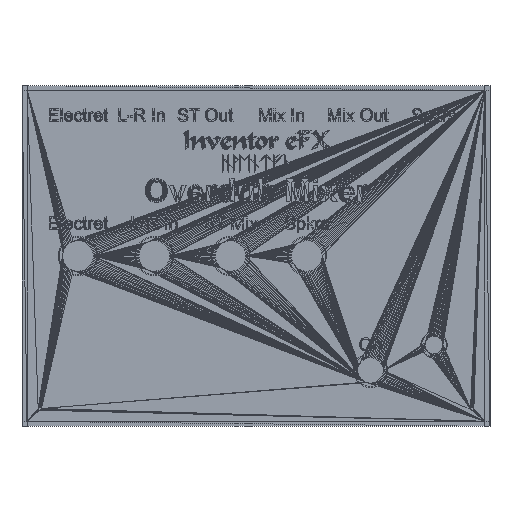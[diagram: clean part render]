
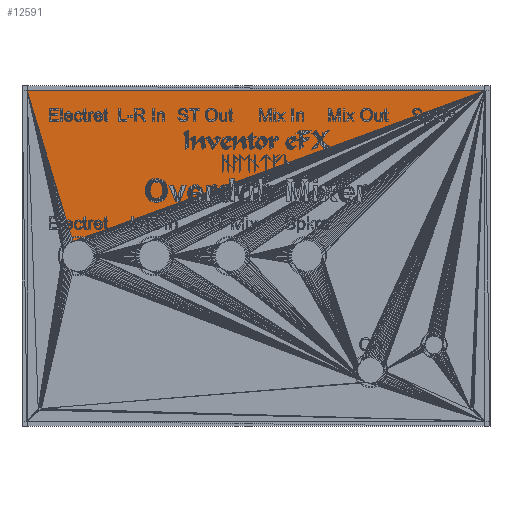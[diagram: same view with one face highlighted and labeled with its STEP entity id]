
A CAD part, top view. The second image highlights one B-rep face of the part: STEP entity #12591.
In plain terms, the highlighted planar face has unit normal (0, 0, 1).
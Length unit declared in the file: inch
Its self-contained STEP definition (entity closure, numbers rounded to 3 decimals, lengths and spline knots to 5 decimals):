
#12560=CARTESIAN_POINT('',(4.5,3.25,0.531));
#12561=DIRECTION('',(0.,0.,1.));
#12562=DIRECTION('',(1.,0.,0.));
#12563=AXIS2_PLACEMENT_3D('',#12560,#12561,#12562);
#12564=PLANE('',#12563);
#12565=CARTESIAN_POINT('',(0.,3.25,0.531));
#12566=VERTEX_POINT('',#12565);
#12567=CARTESIAN_POINT('',(4.5,3.25,0.531));
#12568=VERTEX_POINT('',#12567);
#12569=CARTESIAN_POINT('',(0.,3.25,0.531));
#12570=DIRECTION('',(1.,0.,-0.));
#12571=VECTOR('',#12570,4.5);
#12572=LINE('',#12569,#12571);
#12573=EDGE_CURVE('',#12566,#12568,#12572,.T.);
#12574=ORIENTED_EDGE('',*,*,#12573,.F.);
#12575=CARTESIAN_POINT('',(0.45069,1.76677,0.531));
#12576=VERTEX_POINT('',#12575);
#12577=CARTESIAN_POINT('',(0.,3.25,0.531));
#12578=DIRECTION('',(0.291,-0.957,0.));
#12579=VECTOR('',#12578,1.55019);
#12580=LINE('',#12577,#12579);
#12581=EDGE_CURVE('',#12566,#12576,#12580,.T.);
#12582=ORIENTED_EDGE('',*,*,#12581,.T.);
#12583=CARTESIAN_POINT('',(0.45069,1.76677,0.531));
#12584=DIRECTION('',(0.939,0.344,0.));
#12585=VECTOR('',#12584,4.31242);
#12586=LINE('',#12583,#12585);
#12587=EDGE_CURVE('',#12576,#12568,#12586,.T.);
#12588=ORIENTED_EDGE('',*,*,#12587,.T.);
#12589=EDGE_LOOP('',(#12574,#12582,#12588));
#12590=FACE_BOUND('',#12589,.T.);
#12591=ADVANCED_FACE('',(#12590),#12564,.T.);
